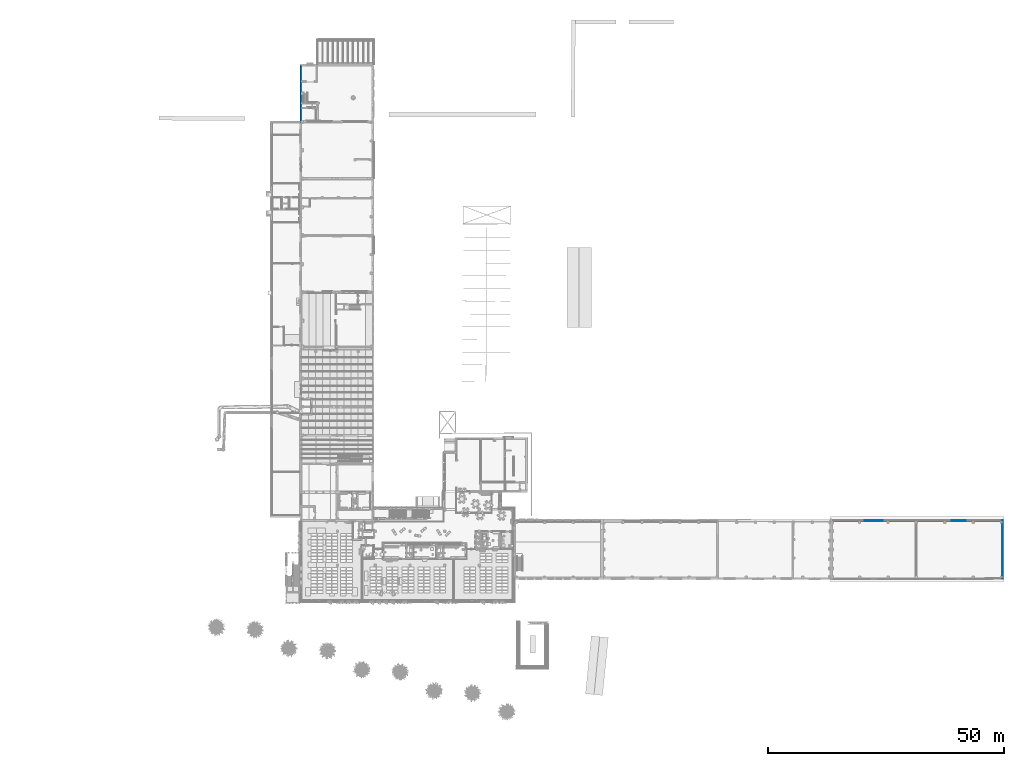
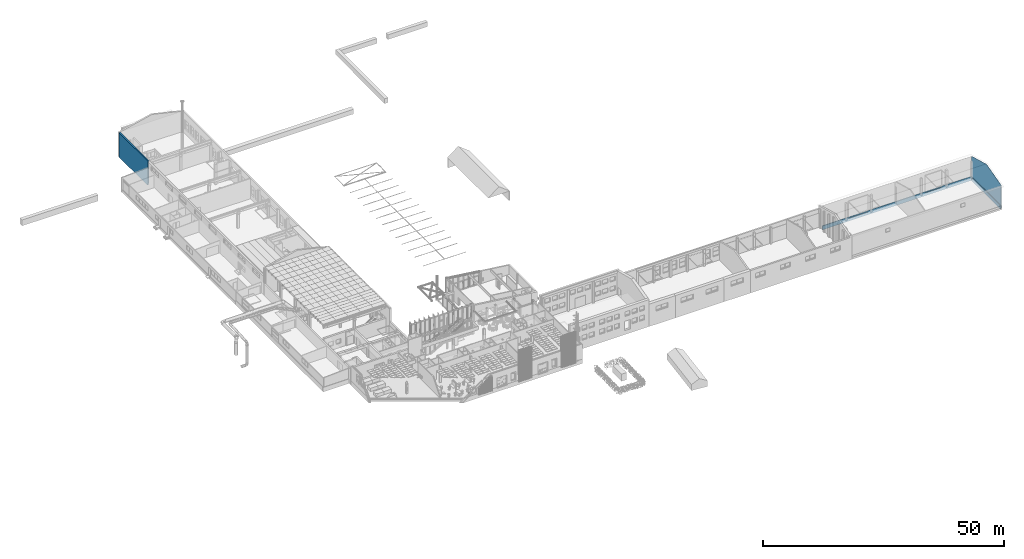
# One storey, part 168 of 301: 6 walls, 2 openings.
"""IFC2X3 building model written with IfcOpenShell, lengths in millimetres."""

from ifc_helpers import new_model, entity, si_unit, converted_unit, derived_unit, money_unit, direction, frame, origin_with_axes, place, context, subcontext, project, spatial, faceted_brep, material, type_object, element, save


model = new_model("IFC2X3")

# Units and contexts
model_context = context("Model", 3, precision=0.01, world=origin_with_axes(), true_north=direction((0.0, 1.0)))
body_context = subcontext(model_context, "Body", "Model", "MODEL_VIEW")
ifc_project = project(units=[si_unit("LENGTHUNIT", "METRE", prefix="MILLI"), si_unit("AREAUNIT", "SQUARE_METRE"), si_unit("VOLUMEUNIT", "CUBIC_METRE"), converted_unit("PLANEANGLEUNIT", "DEGREE", entity("IfcPlaneAngleMeasure", 0.0174532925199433), si_unit("PLANEANGLEUNIT", "RADIAN"), dimensions=[0, 0, 0, 0, 0, 0, 0]), money_unit("EUR"), converted_unit("TIMEUNIT", "Year", entity("IfcTimeMeasure", 31557600.0), si_unit("TIMEUNIT", "SECOND"), dimensions=[0, 0, 1, 0, 0, 0, 0]), si_unit("MASSUNIT", "GRAM", prefix="KILO"), si_unit("THERMODYNAMICTEMPERATUREUNIT", "DEGREE_CELSIUS"), si_unit("LUMINOUSINTENSITYUNIT", "LUMEN"), si_unit("ENERGYUNIT", "JOULE", prefix="MEGA"), derived_unit("THERMALCONDUCTANCEUNIT", [(si_unit("POWERUNIT", "WATT"), 1), (si_unit("LENGTHUNIT", "METRE"), -1), (si_unit("THERMODYNAMICTEMPERATUREUNIT", "KELVIN"), -1)]), derived_unit("SPECIFICHEATCAPACITYUNIT", [(si_unit("ENERGYUNIT", "JOULE"), 1), (si_unit("MASSUNIT", "GRAM", prefix="KILO"), -1), (si_unit("THERMODYNAMICTEMPERATUREUNIT", "KELVIN"), -1)]), derived_unit("MASSDENSITYUNIT", [(si_unit("MASSUNIT", "GRAM", prefix="KILO"), 1), (si_unit("VOLUMEUNIT", "CUBIC_METRE"), -1)])], contexts=[model_context])

# Site, building, storey
site_placement = place(None, frame((0.0, 0.0, 8650.0), z_axis=(0.0, 0.0, 1.0), x_axis=(1.0, 0.0, 0.0)))
site = spatial("IfcSite", under=ifc_project, at=site_placement, Name="43301:001:0844", CompositionType="ELEMENT")
building_placement = place(site_placement, origin_with_axes())
building = spatial("IfcBuilding", under=site, at=building_placement, Name="Kuressaare Ametikooli tuulikute mehaanikute õppekorpus", CompositionType="ELEMENT")
storey_placement = place(building_placement, origin_with_axes())
storey = spatial("IfcBuildingStorey", under=building, at=storey_placement, Name="1.korrus", CompositionType="ELEMENT", Elevation=0.0)

# Walls
ifc_material = material(Name="GENEERILINE - KONSTRUKTRIOON")
wall_type_1 = type_object("IfcWallType", Name="GENEERILINE - KONSTRUKTRIOON 200", PredefinedType="NOTDEFINED")
wall_1_placement = place(storey_placement, frame((236876.0833740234, 26042.5609949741, -530.0), z_axis=(0.0, 0.0, 1.0), x_axis=(0.0, -1.0, 0.0)))
element("IfcWall", 1, at=wall_1_placement, inside=storey, type_object=wall_type_1, material=ifc_material, Name="VS-XX", context=body_context, shape_type="Brep", body=[
    faceted_brep([(0.0, -199.9999999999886, 500.0), (12418.41880911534, -199.9999999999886, 500.0), (12418.41880911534, 0.0, 500.0), (0.0, 0.0, 500.0), (0.0, -199.9999999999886, 0.0), (12418.41880911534, -199.9999999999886, 0.0), (12418.41880911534, 0.0, 0.0), (0.0, 0.0, 0.0)], [[[0, 1, 2, 3]], [[4, 5, 1, 0]], [[2, 1, 5, 6]], [[3, 2, 6, 7]], [[4, 0, 3, 7]], [[7, 6, 5, 4]]]),
])
wall_2_placement = place(storey_placement, frame((236876.0833740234, 26070.08680133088, -530.0), z_axis=(0.0, 0.0, 1.0), x_axis=(-0.9999997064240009, -0.0007662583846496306, 0.0)))
element("IfcWall", 2, at=wall_2_placement, inside=storey, type_object=wall_type_1, material=ifc_material, Name="VS-XX", context=body_context, shape_type="Brep", body=[
    faceted_brep([(0.0, 199.9999999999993, 0.0), (35922.35583740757, 199.9999999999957, 0.0), (35922.35583740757, 0.0, 0.0), (0.0, 0.0, 0.0), (0.0, 199.9999999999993, 500.0), (35922.35583740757, 199.9999999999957, 500.0), (35922.35583740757, 0.0, 500.0), (0.0, 0.0, 500.0)], [[[0, 1, 2, 3]], [[4, 5, 1, 0]], [[2, 1, 5, 6]], [[3, 2, 6, 7]], [[4, 0, 3, 7]], [[7, 6, 5, 4]]]),
])
wall_3_placement = place(storey_placement, frame((236876.0833740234, 26070.08680133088, -1000.0), z_axis=(0.0, 0.0, 1.0), x_axis=(0.0, -1.0, 0.0)))
element("IfcWall", 3, at=wall_3_placement, inside=storey, type_object=wall_type_1, material=ifc_material, Name="VS-XX", context=body_context, shape_type="Brep", body=[
    faceted_brep([(208.4283419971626, -80.0000000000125, 970.0), (608.4284128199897, -80.0000000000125, 970.0), (608.4284128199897, -199.9999999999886, 970.0), (11837.4288271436, -199.9999999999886, 970.0), (11837.4288271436, -80.0000000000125, 970.0), (12237.4288271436, -80.0000000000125, 970.0), (12237.4288271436, -199.9999999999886, 970.0), (12239.75942636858, -199.9999999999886, 970.0), (12239.57538057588, 0.0, 970.0), (200.0000587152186, 0.0, 970.0), (200.1533104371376, -199.9999999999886, 970.0), (208.4283419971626, -199.9999999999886, 970.0), (608.4284128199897, -80.0000000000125, 550.0), (208.4283419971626, -80.0000000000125, 550.0), (608.4284128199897, -199.9999999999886, 550.0), (208.4283419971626, -199.9999999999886, 550.0), (200.1533104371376, -199.9999999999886, 0.0), (12239.75942636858, -199.9999999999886, 0.0), (12237.4288271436, -199.9999999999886, 550.0), (11837.4288271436, -199.9999999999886, 550.0), (11837.4288271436, -80.0000000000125, 550.0), (12237.4288271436, -80.0000000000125, 550.0), (12239.57538057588, 0.0, 0.0), (200.0000587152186, 0.0, 0.0)], [[[0, 1, 2, 3, 4, 5, 6, 7, 8, 9, 10, 11]], [[12, 1, 0, 13]], [[14, 2, 1, 12]], [[14, 15, 11, 10, 16, 17, 7, 6, 18, 19, 3, 2]], [[20, 4, 3, 19]], [[21, 5, 4, 20]], [[18, 6, 5, 21]], [[7, 17, 22, 8]], [[8, 22, 23, 9]], [[23, 16, 10, 9]], [[13, 0, 11, 15]], [[13, 15, 14, 12]], [[22, 17, 16, 23]], [[20, 19, 18, 21]]]),
])

# Wall, openings
wall_4_placement = place(storey_placement, frame((236876.0833740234, 26070.08680133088, -1000.0), z_axis=(0.0, 0.0, 1.0), x_axis=(-0.9999997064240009, -0.0007662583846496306, 0.0)))
wall_4 = element("IfcWall", 4, at=wall_4_placement, inside=storey, type_object=wall_type_1, material=ifc_material, Name="VS-XX", context=body_context, shape_type="Brep", body=[
    faceted_brep([(0.0, 0.0, 970.0), (7417.860506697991, 0.0, 970.0), (7417.860506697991, 199.9999999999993, 970.0), (0.153251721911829, 199.9999999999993, 970.0), (11227.86050669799, 0.0, 710.0), (7417.860506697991, 0.0, 710.0), (0.0, 0.0, 0.0), (35922.35583740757, 0.0, 0.0), (35922.35583740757, 0.0, 970.0), (29667.66953637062, 0.0, 970.0), (29667.66953637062, 0.0, 700.0), (25067.67088682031, 0.0, 700.0), (25067.67088682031, 0.0, 970.0), (11227.86050669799, 0.0, 970.0), (7417.860506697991, 199.9999999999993, 710.0), (11227.86050669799, 200.0000000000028, 710.0), (11227.86050669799, 200.0000000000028, 970.0), (25067.67088682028, 199.9999999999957, 970.0), (25067.67088682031, 199.9999999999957, 700.0), (29667.66953637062, 199.9999999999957, 700.0), (29667.66953637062, 199.9999999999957, 970.0), (35922.35583740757, 199.9999999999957, 970.0), (35922.35583740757, 199.9999999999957, 0.0), (0.153251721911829, 199.9999999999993, 0.0)], [[[0, 1, 2, 3]], [[4, 5, 1, 0, 6, 7, 8, 9, 10, 11, 12, 13]], [[5, 14, 2, 1]], [[14, 15, 16, 17, 18, 19, 20, 21, 22, 23, 3, 2]], [[0, 3, 23, 6]], [[4, 15, 14, 5]], [[6, 23, 22, 7]], [[8, 7, 22, 21]], [[21, 20, 9, 8]], [[10, 9, 20, 19]], [[10, 19, 18, 11]], [[11, 18, 17, 12]], [[17, 16, 13, 12]], [[4, 13, 16, 15]]]),
])
opening_1_placement = place(wall_4_placement, frame((236895.9902554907, 25888.57086277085, 1000.0), z_axis=(0.0, 0.0, 1.0), x_axis=(-0.9999997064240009, 0.0007662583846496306, 0.0)))
element("IfcOpeningElement", 5, at=opening_1_placement, cuts=wall_4, Name="ava", context=body_context, shape_type="Brep", body=[
    faceted_brep([(211808.2307843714, 26297.61254897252, -300.0), (211808.2307843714, 26297.61254897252, 700.0), (211808.7538150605, 25615.03530604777, 700.0), (211808.7538150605, 25615.03530604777, -300.0), (207208.2307843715, 26297.61254897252, -300.0), (207208.2307843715, 26297.61254897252, 700.0), (207208.7538150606, 25615.03530604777, 700.0), (207208.7538150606, 25615.03530604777, -300.0)], [[[0, 1, 2, 3]], [[0, 4, 5, 1]], [[1, 5, 6, 2]], [[3, 2, 6, 7]], [[4, 0, 3, 7]], [[5, 4, 7, 6]]]),
])
opening_2_placement = place(wall_4_placement, frame((236895.9902554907, 25888.57086277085, 1000.0), z_axis=(0.0, 0.0, 1.0), x_axis=(-0.9999997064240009, 0.0007662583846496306, 0.0)))
element("IfcOpeningElement", 6, at=opening_2_placement, cuts=wall_4, Name="ava", context=body_context, shape_type="Brep", body=[
    faceted_brep([(229458.0463460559, 26297.61254897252, -290.0), (229458.0463460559, 26297.61254897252, 710.0), (229458.5693767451, 25615.03530604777, 710.0), (229458.5693767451, 25615.03530604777, -290.0), (225648.0452275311, 26297.61254897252, -290.0), (225648.0452275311, 26297.61254897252, 710.0), (225648.5682582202, 25615.03530604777, 710.0), (225648.5682582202, 25615.03530604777, -290.0)], [[[0, 1, 2, 3]], [[0, 4, 5, 1]], [[1, 5, 6, 2]], [[3, 2, 6, 7]], [[4, 0, 3, 7]], [[5, 4, 7, 6]]]),
])

# Walls
wall_type_2 = type_object("IfcWallType", Name="GENEERILINE - KONSTRUKTRIOON 80", PredefinedType="NOTDEFINED")
wall_5_placement = place(storey_placement, frame((236876.0833740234, 26042.5609949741, -30.0), z_axis=(0.0, 0.0, 1.0), x_axis=(0.0, -1.0, 0.0)))
element("IfcWall", 7, at=wall_5_placement, inside=storey, type_object=wall_type_2, material=ifc_material, Name="VS-XX", context=body_context, shape_type="Brep", body=[
    faceted_brep([(79.9999999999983, -80.0000000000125, 5071.649241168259), (79.9999999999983, 0.0, 5071.649241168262), (79.9999999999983, 0.0, 0.0), (79.9999999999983, -80.0000000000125, 0.0), (6227.101778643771, 0.0, 6735.15035657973), (6227.101778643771, -80.0000000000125, 6735.15035657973), (12308.41855845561, 0.0, 5100.190948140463), (12308.41855845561, 0.0, 0.0), (12308.58934402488, -80.0000000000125, 0.0), (12308.58934402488, -80.0000000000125, 5100.145032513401)], [[[0, 1, 2, 3]], [[4, 1, 0, 5]], [[4, 6, 7, 2, 1]], [[2, 7, 8, 3]], [[5, 0, 3, 8, 9]], [[6, 4, 5, 9]], [[6, 9, 8, 7]]]),
])
wall_type_3 = type_object("IfcWallType", Name="GENEERILINE - KONSTRUKTRIOON 280", PredefinedType="NOTDEFINED")
wall_6_placement = place(storey_placement, frame((87938.837899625, 122743.6599731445, -1500.0), z_axis=(0.0, 0.0, 1.0), x_axis=(-7.655742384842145e-06, -0.9999999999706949, 0.0)))
element("IfcWall", 8, at=wall_6_placement, inside=storey, type_object=wall_type_3, material=ifc_material, Name="VS-XX", context=body_context, shape_type="Brep", body=[
    faceted_brep([(410.0000148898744, 0.0, 6205.344994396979), (410.0754765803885, 280.0000000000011, 6270.771261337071), (410.0754765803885, 280.0000000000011, 0.0), (410.0000148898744, 0.0, 0.0), (12424.8156741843, 280.0000000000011, 6270.749768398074), (12424.81567418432, 0.0, 6205.323501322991), (12424.8156741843, 280.0000000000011, 500.0), (12154.81567418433, 280.0000000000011, 500.0), (12154.81567418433, 280.0000000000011, 0.0), (12154.81567418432, 0.0, 0.0), (12154.81567418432, 0.0, 500.0), (12424.81567418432, 0.0, 500.0)], [[[0, 1, 2, 3]], [[4, 1, 0, 5]], [[1, 4, 6, 7, 8, 2]], [[3, 2, 8, 9]], [[5, 0, 3, 9, 10, 11]], [[4, 5, 11, 6]], [[11, 10, 7, 6]], [[10, 9, 8, 7]]]),
])

save(model, "model.ifc")
